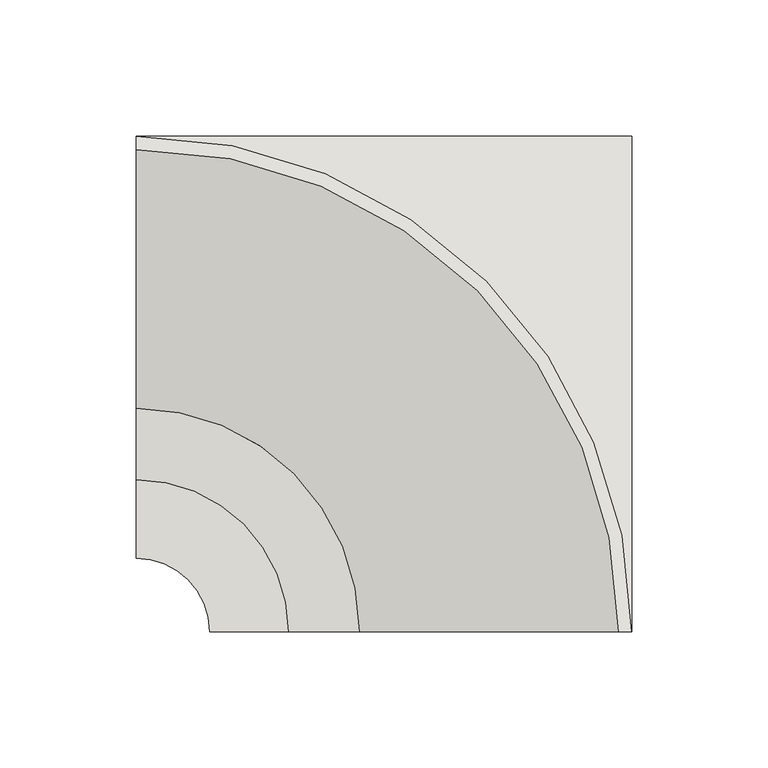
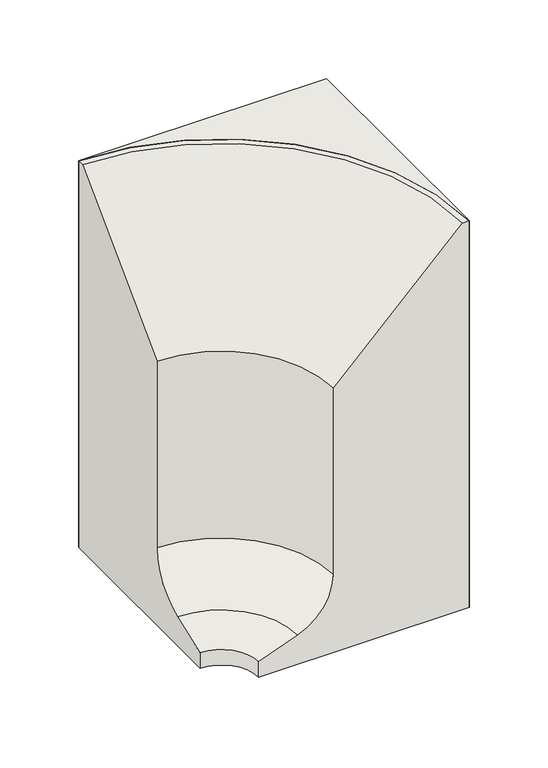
"""IFC4 building model written with IfcOpenShell, lengths in millimetres: wall geometry, GM_ST_UN_ACO kerb SS inside corner_ACO : S/S H300."""

from ifc_helpers import new_model, si_unit, point, frame, origin, place, context, project, spatial, polyline, circle_curve, ellipse_curve, trimmed, source, transform, mapped, element, save
from ifc_brep_helpers import plane_surface, cylinder_surface, revolved_surface, advanced_brep


def wall_454f2aea(model_context):
    return source(origin(), model_context, "Body", "AdvancedBrep", [
        advanced_brep(
        [(0.0, 0.0, 300.0), (-182.0, 0.0, 300.0), (0.0, -182.0, 300.0), (0.0, 0.0, 0.0), (0.0, -182.0, 0.0), (-182.0, 0.0, 0.0)],
        [
            (0, 1),
            (1, 2, circle_curve(frame((-182.0, -182.0, 300.0), z_axis=(0.0, 0.0, -1.0), x_axis=(1.0, 0.0, 0.0)), 182.0)),
            (2, 0),
            (3, 4),
            (4, 5, circle_curve(frame((-182.0, -182.0, 0.0), z_axis=(0.0, 0.0, 1.0), x_axis=(1.0, 0.0, 0.0)), 182.0)),
            (5, 3),
            (0, 3),
            (5, 1),
            (4, 2),
        ],
        [
            plane_surface(frame((0.0, 0.0, 300.0), z_axis=(0.0, 0.0, 1.0), x_axis=(-1.0, 0.0, 0.0))),
            plane_surface(frame((0.0, 0.0, 0.0), z_axis=(0.0, 0.0, -1.0), x_axis=(1.0, 0.0, 0.0))),
            plane_surface(frame((0.0, 0.0, 300.0), z_axis=(0.0, 1.0, 0.0), x_axis=(0.0, 0.0, -1.0))),
            revolved_surface(polyline([(0.0, -182.0, 0.0), (0.0, -182.0, 300.0)]), (-182.0, -182.0, 0.0), (0.0, 0.0, -1.0)),
            plane_surface(frame((0.0, -182.0, 300.0), z_axis=(1.0, 0.0, 0.0), x_axis=(0.0, 0.0, -1.0))),
        ],
        [
            (0, [[1, 2, 3]]),
            (1, [[4, 5, 6]]),
            (2, [[-1, 7, -6, 8]]),
            (3, [[-2, -8, -5, 9]]),
            (4, [[-3, -9, -4, -7]]),
        ],
    ),
        advanced_brep(
        [(-182.0, -154.9291966, 0.0), (-182.0, -154.9291966, 11.977476), (-182.0, -126.1987698, 22.4886008), (-182.0, -99.9420231, 60.0535178), (-182.0, -99.9420231, 204.9637441), (-182.0, -4.952669, 299.9530982), (-182.0, 0.0, 299.9530982), (-182.0, 0.0, 0.0), (-154.9291966, -182.0, 0.0), (0.0, -182.0, 0.0), (0.0, -182.0, 299.9530982), (-4.952669, -182.0, 299.9530982), (-99.9420231, -182.0, 204.9637441), (-99.9420231, -182.0, 60.0535178), (-126.1987698, -182.0, 22.4886008), (-154.9291966, -182.0, 11.977476)],
        [
            (0, 1),
            (1, 2),
            (2, 3, circle_curve(frame((-182.0, -139.9420231, 60.0535178), z_axis=(1.0, 0.0, 0.0), x_axis=(0.0, 1.0, 0.0)), 40.0)),
            (3, 4),
            (4, 5),
            (5, 6),
            (6, 7),
            (7, 0),
            (8, 9),
            (9, 10),
            (10, 11),
            (11, 12),
            (12, 13),
            (13, 14, circle_curve(frame((-139.9420231, -182.0, 60.0535178), z_axis=(0.0, 1.0, 0.0), x_axis=(1.0, 0.0, 0.0)), 40.0)),
            (14, 15),
            (15, 8),
            (15, 1, circle_curve(frame((-182.0, -182.0, 11.977476), z_axis=(0.0, 0.0, 1.0), x_axis=(0.0, 1.0, 0.0)), 27.0708034)),
            (0, 8, circle_curve(frame((-182.0, -182.0, 0.0), z_axis=(0.0, 0.0, -1.0), x_axis=(0.0, 1.0, 0.0)), 27.0708034)),
            (14, 2, circle_curve(frame((-182.0, -182.0, 22.4886008), z_axis=(0.0, 0.0, 1.0), x_axis=(0.0, 1.0, 0.0)), 55.8012302)),
            (13, 3, circle_curve(frame((-182.0, -182.0, 60.0535178), z_axis=(0.0, 0.0, 1.0), x_axis=(0.0, 1.0, 0.0)), 82.0579769)),
            (12, 4, circle_curve(frame((-182.0, -182.0, 204.9637441), z_axis=(0.0, 0.0, 1.0), x_axis=(0.0, 1.0, 0.0)), 82.0579769)),
            (11, 5, circle_curve(frame((-182.0, -182.0, 299.9530982), z_axis=(0.0, 0.0, 1.0), x_axis=(0.0, 1.0, 0.0)), 177.047331)),
            (10, 6, circle_curve(frame((-182.0, -182.0, 299.9530982), z_axis=(0.0, 0.0, 1.0), x_axis=(0.0, 1.0, 0.0)), 182.0)),
            (9, 7, circle_curve(frame((-182.0, -182.0, 0.0), z_axis=(0.0, 0.0, 1.0), x_axis=(0.0, 1.0, 0.0)), 182.0)),
        ],
        [
            plane_surface(frame((-182.0, 0.0, 0.0), z_axis=(-1.0, 0.0, 0.0), x_axis=(0.0, 0.0, 1.0))),
            plane_surface(frame((0.0, -182.0, 0.0), z_axis=(0.0, -1.0, 0.0), x_axis=(0.0, 0.0, 1.0))),
            revolved_surface(polyline([(-182.0, -154.9291966, 0.0), (-182.0, -154.9291966, 11.977476)]), (-182.0, -182.0, 0.0), (0.0, 0.0, -1.0)),
            revolved_surface(polyline([(-182.0, -154.9291966, 11.977476), (-182.0, -126.1987698, 22.4886008)]), (-182.0, -182.0, 0.0), (0.0, 0.0, -1.0)),
            revolved_surface(trimmed(ellipse_curve(frame((-182.0, -139.9420231, 60.0535178), z_axis=(1.0, 0.0, 0.0), x_axis=(0.0, 1.0, 0.0)), 40.0, 40.0), [point((-182.0, -126.1987698, 22.4886008))], [point((-182.0, -99.9420231, 60.0535178))], True, "CARTESIAN"), (-182.0, -182.0, 0.0), (0.0, 0.0, -1.0)),
            revolved_surface(polyline([(-182.0, -99.9420231, 60.0535178), (-182.0, -99.9420231, 204.9637441)]), (-182.0, -182.0, 0.0), (0.0, 0.0, -1.0)),
            revolved_surface(polyline([(-182.0, -99.9420231, 204.9637441), (-182.0, -4.952669, 299.9530982)]), (-182.0, -182.0, 0.0), (0.0, 0.0, -1.0)),
            plane_surface(frame((-182.0, -182.0, 299.9530982), z_axis=(0.0, 0.0, 1.0), x_axis=(0.0, 1.0, 0.0))),
            cylinder_surface(frame((-182.0, -182.0, 0.0), z_axis=(0.0, 0.0, -1.0), x_axis=(0.0, 1.0, 0.0)), 182.0),
            plane_surface(frame((-182.0, -182.0, 0.0), z_axis=(0.0, 0.0, -1.0), x_axis=(0.0, 1.0, 0.0))),
        ],
        [
            (0, [[1, 2, 3, 4, 5, 6, 7, 8]]),
            (1, [[9, 10, 11, 12, 13, 14, 15, 16]]),
            (2, [[17, -1, 18, -16]]),
            (3, [[19, -2, -17, -15]]),
            (4, [[20, -3, -19, -14]]),
            (5, [[21, -4, -20, -13]]),
            (6, [[22, -5, -21, -12]]),
            (7, [[23, -6, -22, -11]]),
            (8, [[24, -7, -23, -10]]),
            (9, [[-18, -8, -24, -9]]),
        ],
    ),
    ])


if __name__ == "__main__":
    model = new_model("IFC4")
    model_context = context("Model", 3, world=origin())
    ifc_project = project(units=[si_unit("LENGTHUNIT", "METRE", prefix="MILLI")], contexts=[model_context])
    site = spatial("IfcSite", under=ifc_project)
    building = spatial("IfcBuilding", under=site)
    placement = place(None, origin())
    wall_shape = wall_454f2aea(model_context)
    element("IfcWall", 1, ObjectType="GM_ST_UN_ACO kerb SS inside corner_ACO : S/S H300", at=placement, inside=building, context=model_context, shape_type="MappedRepresentation", body=[
        mapped(wall_shape, transform((0.0, 0.0, 0.0), x_axis=(1.0, 0.0, 0.0), y_axis=(0.0, 1.0, 0.0), z_axis=(0.0, 0.0, 1.0))),
    ])
    save(model, "model.ifc")
